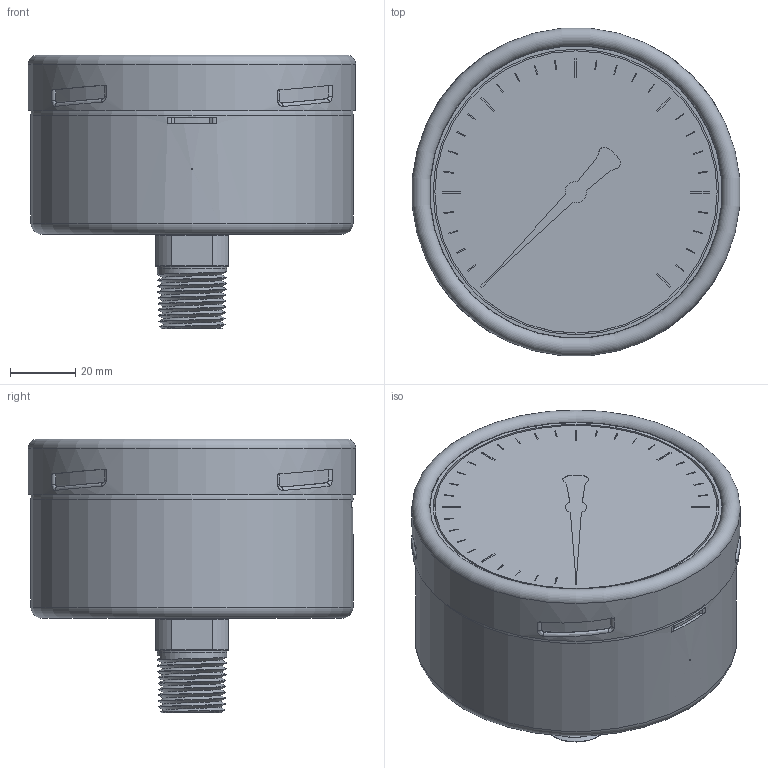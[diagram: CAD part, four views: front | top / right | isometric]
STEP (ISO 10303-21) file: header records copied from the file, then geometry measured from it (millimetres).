
FILE_DESCRIPTION(/* description */ (''),/* implementation_level */ '2;1');
FILE_NAME(/* name */ 'P:\Drawings, Sketches\Stephen Sketches\PCS Gauges\Assemblies\.stp files\40282 - PC40 BACK.stp',/* time_stamp */ '2023-08-15T15:01:27-05:00',/* author */ ('stephen'),/* organization */ (''),/* preprocessor_version */ 'ST-DEVELOPER v18.1',/* originating_system */ 'Autodesk Inventor 2022',/* authorisation */ '');
FILE_SCHEMA (('AUTOMOTIVE_DESIGN { 1 0 10303 214 3 1 1 }'));
Length unit declared in the file: millimetre
Products named in the file (4): KPCh 100-3 rm G1-4B; KPCh 100-3 rm G1-4B_1; 100mm dial; .5 ftg
Assembly tree (3 placements, depth 2):
  KPCh 100-3 rm G1-4B
    KPCh 100-3 rm G1-4B_1
    100mm dial
    .5 ftg
Bounding box: 100.42 x 100.42 x 83.95 mm (x, y, z)
Volume: 421091 mm3; surface area: 50474.8 mm2
Topology: 3 solids, 3 shells, 287 faces, 678 edges, 439 vertices
Faces by surface type: plane 195, cylinder 44, bspline 26, torus 12, cone 10
Full cylindrical faces by diameter (mm): 0.254 x2, 21.336 x1, 86.547 x1, 87.6 x1, 98.8 x1, 99.2 x1, 100.8 x1
Entity records: 16113 total; most frequent: CARTESIAN_POINT 9238, ORIENTED_EDGE 1356, DIRECTION 1215, EDGE_CURVE 678, LINE 495, VECTOR 495, VERTEX_POINT 439, AXIS2_PLACEMENT_3D 360
